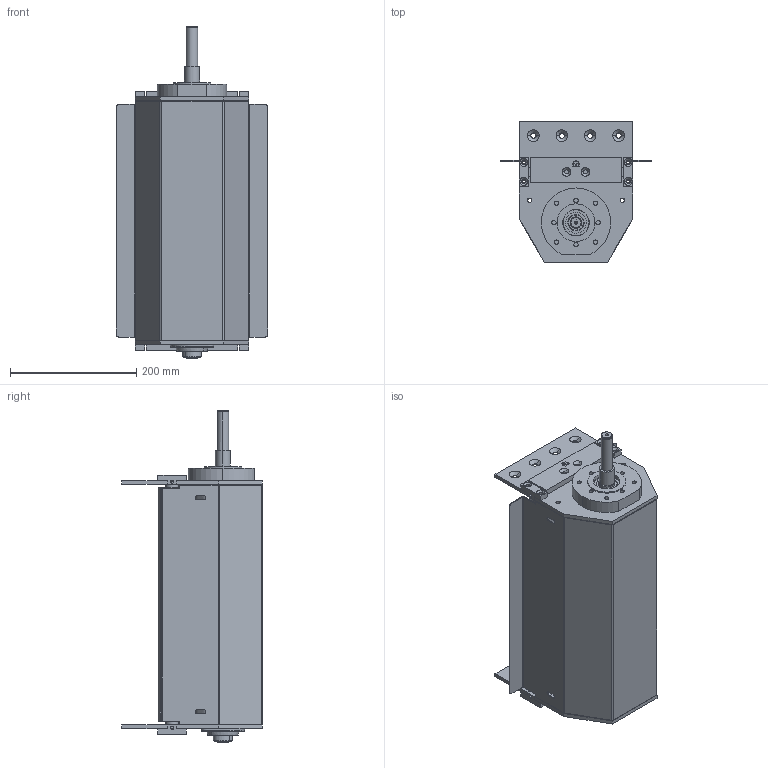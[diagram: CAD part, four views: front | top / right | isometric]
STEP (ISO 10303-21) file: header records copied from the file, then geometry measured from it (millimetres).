
FILE_DESCRIPTION (( 'STEP AP203' ), '1' );
FILE_NAME ('084.050.KCS.44.350.STEP', '2019-07-29T13:49:46', ( '' ), ( '' ), 'SwSTEP 2.0', 'SolidWorks 2018', '' );
FILE_SCHEMA (( 'CONFIG_CONTROL_DESIGN' ));
Length unit declared in the file: millimetre
Products named in the file (15): 084.802.003; 084.817.073; 084.812.003; 084.814.002-1; 084.817.074; 084.802.004-1; 084.802.020; 084.810.003; 084.817.075; 084.050.KCS.44.350; 084.802.012_Solo centrale; 084.802.021; CUSCINETTI A SFERE_6004-2RS; 084.802.010; 084.817.072_Default<A macchina>
Assembly tree (25 placements, depth 2):
  084.050.KCS.44.350
    084.817.072_Default<A macchina>
    084.817.075
    084.802.010
    084.802.021
    084.814.002-1
    084.810.003  x2
    084.802.004-1  x4
    084.802.020
    084.812.003
    084.802.003  x2
    084.817.073  x2
    084.817.074  x2
    CUSCINETTI A SFERE_6004-2RS  x4
    084.802.012_Solo centrale  x2
Bounding box: 240 x 223 x 526 mm (x, y, z)
Volume: 2697186.1 mm3; surface area: 1313205.2 mm2
Topology: 27 solids, 27 shells, 978 faces, 2430 edges, 1563 vertices
Faces by surface type: plane 419, cylinder 347, cone 134, torus 68, sphere 10
Entity records: 20649 total; most frequent: DIRECTION 3470, CARTESIAN_POINT 3280, ORIENTED_EDGE 3048, EDGE_CURVE 1524, AXIS2_PLACEMENT_3D 1320, VERTEX_POINT 982, VECTOR 830, LINE 830
